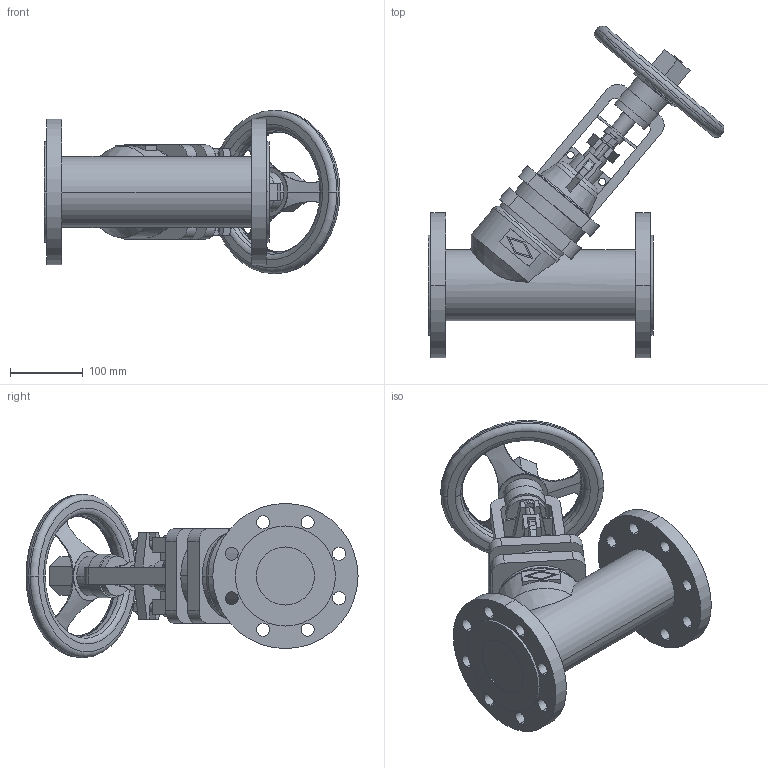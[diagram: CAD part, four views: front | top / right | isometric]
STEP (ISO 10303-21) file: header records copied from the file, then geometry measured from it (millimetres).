
FILE_DESCRIPTION(('OneSpaceDesigner STEP Export'),'2;1');
FILE_NAME('c000004397.stp','2010-05-07T 9:37:04',(''),(''),'OneSpace Designer STEP processor for AP214 (Solid Model)','OneSpace Modeling 15.50B 03-Nov-2007 (C) CoCreate Software GmbH','');
FILE_SCHEMA(('AUTOMOTIVE_DESIGN { 1 0 10303 214 1 1 1 1 }'));
Length unit declared in the file: millimetre
Products named in the file (1): 1
Bounding box: 407.49 x 457.1 x 225 mm (x, y, z)
Volume: 5764756.5 mm3; surface area: 460651.9 mm2
Topology: 1 solids, 1 shells, 332 faces, 896 edges, 589 vertices
Faces by surface type: plane 148, cylinder 138, torus 34, cone 12
Entity records: 13323 total; most frequent: CARTESIAN_POINT 2796, ORIENTED_EDGE 1792, DIRECTION 1420, EDGE_CURVE 896, VERTEX_POINT 589, AXIS2_PLACEMENT_3D 491, VECTOR 438, LINE 438
